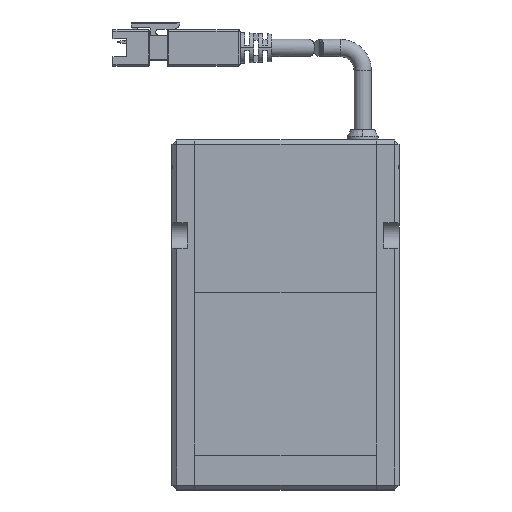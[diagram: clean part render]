
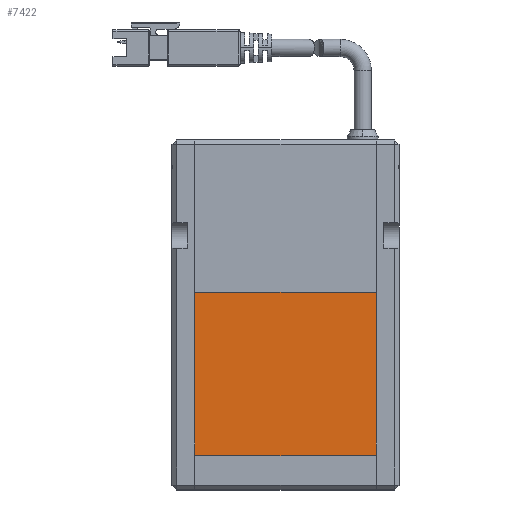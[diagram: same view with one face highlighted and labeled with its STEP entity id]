
A CAD part, top view. The second image highlights one B-rep face of the part: STEP entity #7422.
In plain terms, the highlighted planar face has unit normal (0, 0, 1).
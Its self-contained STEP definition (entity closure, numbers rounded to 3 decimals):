
#123 = CARTESIAN_POINT ( 'NONE',  ( 22.5, -13., 24. ) ) ;
#2772 = DIRECTION ( 'NONE',  ( 0., 1., 0. ) ) ;
#2953 = AXIS2_PLACEMENT_3D ( 'NONE', #123, #14313, #9054 ) ;
#3487 = LINE ( 'NONE', #12438, #14754 ) ;
#3556 = ORIENTED_EDGE ( 'NONE', *, *, #10789, .T. ) ;
#4001 = CARTESIAN_POINT ( 'NONE',  ( 1.5, 6., 24. ) ) ;
#4631 = VERTEX_POINT ( 'NONE', #6843 ) ;
#4971 = CARTESIAN_POINT ( 'NONE',  ( 43.5, 6., 24. ) ) ;
#5041 = DIRECTION ( 'NONE',  ( 1., 0., 0. ) ) ;
#5335 = VECTOR ( 'NONE', #2772, 1000. ) ;
#5497 = CARTESIAN_POINT ( 'NONE',  ( 1.5, -32., 24. ) ) ;
#6843 = CARTESIAN_POINT ( 'NONE',  ( 43.5, 6., 24. ) ) ;
#7215 = ORIENTED_EDGE ( 'NONE', *, *, #12516, .T. ) ;
#7422 = ADVANCED_FACE ( 'NONE', ( #7882 ), #14384, .T. ) ;
#7563 = LINE ( 'NONE', #10325, #7805 ) ;
#7805 = VECTOR ( 'NONE', #5041, 1000. ) ;
#7882 = FACE_OUTER_BOUND ( 'NONE', #14105, .T. ) ;
#8234 = CARTESIAN_POINT ( 'NONE',  ( 43.5, -32., 24. ) ) ;
#9054 = DIRECTION ( 'NONE',  ( 1., 0., 0. ) ) ;
#10207 = VECTOR ( 'NONE', #15449, 1000. ) ;
#10325 = CARTESIAN_POINT ( 'NONE',  ( 43.5, -32., 24. ) ) ;
#10522 = EDGE_CURVE ( 'NONE', #13273, #13327, #7563, .T. ) ;
#10789 = EDGE_CURVE ( 'NONE', #13327, #4631, #13048, .T. ) ;
#11342 = LINE ( 'NONE', #4971, #10207 ) ;
#11883 = CARTESIAN_POINT ( 'NONE',  ( 43.5, -32., 24. ) ) ;
#12109 = EDGE_CURVE ( 'NONE', #13256, #13273, #3487, .T. ) ;
#12396 = ORIENTED_EDGE ( 'NONE', *, *, #12109, .T. ) ;
#12438 = CARTESIAN_POINT ( 'NONE',  ( 1.5, -32., 24. ) ) ;
#12516 = EDGE_CURVE ( 'NONE', #4631, #13256, #11342, .T. ) ;
#13048 = LINE ( 'NONE', #11883, #5335 ) ;
#13256 = VERTEX_POINT ( 'NONE', #4001 ) ;
#13273 = VERTEX_POINT ( 'NONE', #5497 ) ;
#13327 = VERTEX_POINT ( 'NONE', #8234 ) ;
#13464 = ORIENTED_EDGE ( 'NONE', *, *, #10522, .T. ) ;
#13706 = DIRECTION ( 'NONE',  ( 0., -1., 0. ) ) ;
#14105 = EDGE_LOOP ( 'NONE', ( #3556, #7215, #12396, #13464 ) ) ;
#14313 = DIRECTION ( 'NONE',  ( 0., 0., 1. ) ) ;
#14384 = PLANE ( 'NONE',  #2953 ) ;
#14754 = VECTOR ( 'NONE', #13706, 1000. ) ;
#15449 = DIRECTION ( 'NONE',  ( -1., 0., 0. ) ) ;
